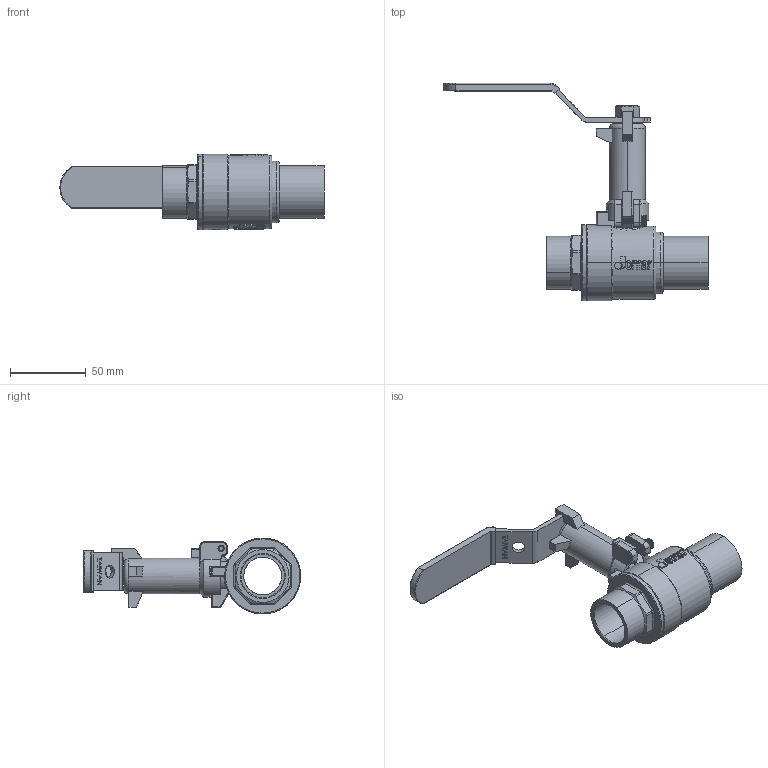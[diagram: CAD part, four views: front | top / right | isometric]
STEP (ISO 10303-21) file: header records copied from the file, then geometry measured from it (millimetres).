
FILE_DESCRIPTION (( 'STEP AP203' ), '1' );
FILE_NAME ('DN25-JOMAR增高套筒估價圖-CxC無掛鎖.STEP', '2024-04-09T08:25:11', ( '' ), ( '' ), 'SwSTEP 2.0', 'SolidWorks 2018', '' );
FILE_SCHEMA (( 'CONFIG_CONTROL_DESIGN' ));
Length unit declared in the file: millimetre
Products named in the file (17): BBL715-1''''JOMAR球閥體-CxC-無鉛無插溝; CBL235-20230914改; RBL264; CBL215-白色膠套-S-200CSSG; EBL205A; DN20-CBL714-HANDLE & SLEEVE 組合(白色S膠套); EBL205B; DN20-PIPE 2-2; GBL205 (組裝); DN20-白鐵中心栓+配件; BBL715A-1''''JOMAR²y»Ö-CxC´U»\-µL¹]µL´¡·¾; SCREW-M4-19L; EBL159; DN20-白鐵中心栓牙套; NBL265; DN25-JOMAR增高套筒估價圖-CxC無掛鎖; TBL265(無鑽孔)
Assembly tree (18 placements, depth 3):
  DN25-JOMAR增高套筒估價圖-CxC無掛鎖
    BBL715-1''''JOMAR球閥體-CxC-無鉛無插溝
    RBL264
    EBL205A
    EBL205B
    GBL205 (組裝)
    BBL715A-1''''JOMAR²y»Ö-CxC´U»\-µL¹]µL´¡·¾
    EBL159  x2
    NBL265
    TBL265(無鑽孔)
    DN20-CBL714-HANDLE & SLEEVE 組合(白色S膠套)
      CBL235-20230914改
      CBL215-白色膠套-S-200CSSG
    CBL215-白色膠套-S-200CSSG
    DN20-PIPE 2-2
    DN20-白鐵中心栓+配件
    SCREW-M4-19L
    DN20-白鐵中心栓牙套
Bounding box: 174.2 x 143.21 x 50 mm (x, y, z)
Volume: 130110.5 mm3; surface area: 94547.4 mm2
Topology: 17 solids, 17 shells, 4103 faces, 11078 edges, 7322 vertices
Faces by surface type: plane 2205, bspline 1135, cylinder 599, cone 95, torus 55, sphere 14
Entity records: 149424 total; most frequent: CARTESIAN_POINT 85907, ORIENTED_EDGE 14568, DIRECTION 10047, EDGE_CURVE 7284, VERTEX_POINT 4801, VECTOR 4047, LINE 4047, AXIS2_PLACEMENT_3D 3000
